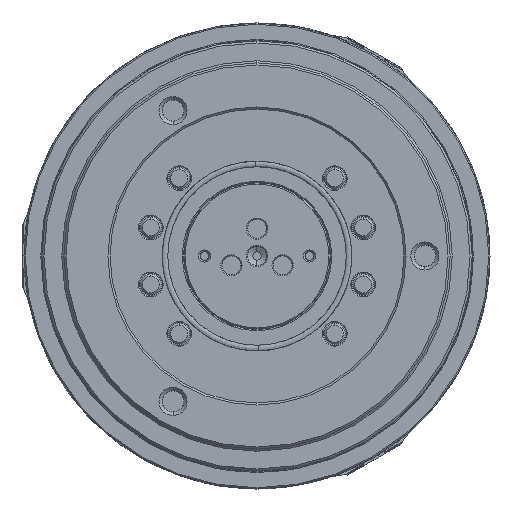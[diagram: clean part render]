
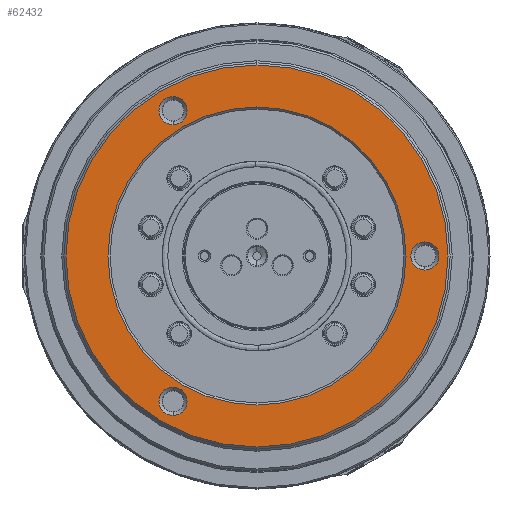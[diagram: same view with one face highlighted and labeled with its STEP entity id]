
A CAD part, left-side view. The second image highlights one B-rep face of the part: STEP entity #62432.
In plain terms, the highlighted planar face has unit normal (-1, 0, 0).
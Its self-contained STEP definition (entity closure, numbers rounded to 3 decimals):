
#569 = CARTESIAN_POINT ( 'NONE',  ( -112., -80., -6.7 ) ) ;
#1786 = VERTEX_POINT ( 'NONE', #105604 ) ;
#3149 = CIRCLE ( 'NONE', #72936, 91. ) ;
#4981 = CARTESIAN_POINT ( 'NONE',  ( -112., 40., -75.982 ) ) ;
#6505 = DIRECTION ( 'NONE',  ( 1., 0., 0. ) ) ;
#6790 = VERTEX_POINT ( 'NONE', #8738 ) ;
#7437 = CARTESIAN_POINT ( 'NONE',  ( -112., 40., 69.282 ) ) ;
#7969 = EDGE_CURVE ( 'NONE', #97778, #6790, #3149, .T. ) ;
#8738 = CARTESIAN_POINT ( 'NONE',  ( -112., 0., -91. ) ) ;
#9093 = CARTESIAN_POINT ( 'NONE',  ( -112., 0., 0. ) ) ;
#9693 = EDGE_CURVE ( 'NONE', #52548, #1786, #76885, .T. ) ;
#10451 = AXIS2_PLACEMENT_3D ( 'NONE', #24880, #6505, #41558 ) ;
#11562 = AXIS2_PLACEMENT_3D ( 'NONE', #79365, #68442, #27023 ) ;
#13842 = CIRCLE ( 'NONE', #74508, 6.7 ) ;
#17148 = CARTESIAN_POINT ( 'NONE',  ( -112., -80., 0. ) ) ;
#17513 = CARTESIAN_POINT ( 'NONE',  ( -112., 0., -71. ) ) ;
#17681 = DIRECTION ( 'NONE',  ( -1., 0., 0. ) ) ;
#20138 = VERTEX_POINT ( 'NONE', #53413 ) ;
#20325 = CARTESIAN_POINT ( 'NONE',  ( -112., 0., 0. ) ) ;
#21703 = CARTESIAN_POINT ( 'NONE',  ( -112., -80., 0. ) ) ;
#23048 = DIRECTION ( 'NONE',  ( 0., 0., 1. ) ) ;
#23102 = EDGE_LOOP ( 'NONE', ( #49846, #45462 ) ) ;
#23727 = EDGE_CURVE ( 'NONE', #20138, #27788, #13842, .T. ) ;
#24880 = CARTESIAN_POINT ( 'NONE',  ( -112., 40., -69.282 ) ) ;
#25861 = EDGE_CURVE ( 'NONE', #1786, #52548, #107199, .T. ) ;
#26513 = EDGE_CURVE ( 'NONE', #6790, #97778, #39201, .T. ) ;
#26851 = AXIS2_PLACEMENT_3D ( 'NONE', #7437, #49433, #77057 ) ;
#27023 = DIRECTION ( 'NONE',  ( 0., 0., 1. ) ) ;
#27255 = DIRECTION ( 'NONE',  ( -1., 0., 0. ) ) ;
#27788 = VERTEX_POINT ( 'NONE', #33365 ) ;
#27871 = DIRECTION ( 'NONE',  ( 0., 0., -1. ) ) ;
#28326 = EDGE_CURVE ( 'NONE', #63162, #90652, #76291, .T. ) ;
#30321 = AXIS2_PLACEMENT_3D ( 'NONE', #81380, #37634, #27871 ) ;
#33365 = CARTESIAN_POINT ( 'NONE',  ( -112., 40., 75.982 ) ) ;
#33924 = CIRCLE ( 'NONE', #61575, 71. ) ;
#34611 = ORIENTED_EDGE ( 'NONE', *, *, #100334, .F. ) ;
#37017 = FACE_BOUND ( 'NONE', #108084, .T. ) ;
#37399 = AXIS2_PLACEMENT_3D ( 'NONE', #9093, #17681, #23048 ) ;
#37634 = DIRECTION ( 'NONE',  ( 1., 0., 0. ) ) ;
#38931 = DIRECTION ( 'NONE',  ( 0., 0., -1. ) ) ;
#39201 = CIRCLE ( 'NONE', #37399, 91. ) ;
#39317 = DIRECTION ( 'NONE',  ( 1., 0., 0. ) ) ;
#41001 = CARTESIAN_POINT ( 'NONE',  ( -112., 40., 69.282 ) ) ;
#41558 = DIRECTION ( 'NONE',  ( 0., 0., -1. ) ) ;
#42119 = VERTEX_POINT ( 'NONE', #17513 ) ;
#42793 = EDGE_LOOP ( 'NONE', ( #60683, #50841 ) ) ;
#42817 = ORIENTED_EDGE ( 'NONE', *, *, #9693, .T. ) ;
#43340 = ORIENTED_EDGE ( 'NONE', *, *, #110325, .F. ) ;
#45462 = ORIENTED_EDGE ( 'NONE', *, *, #7969, .T. ) ;
#45663 = FACE_BOUND ( 'NONE', #90631, .T. ) ;
#46782 = FACE_BOUND ( 'NONE', #42793, .T. ) ;
#47391 = CARTESIAN_POINT ( 'NONE',  ( -112., 71., 0. ) ) ;
#48200 = DIRECTION ( 'NONE',  ( -1., 0., 0. ) ) ;
#49433 = DIRECTION ( 'NONE',  ( 1., 0., 0. ) ) ;
#49846 = ORIENTED_EDGE ( 'NONE', *, *, #26513, .T. ) ;
#49892 = CARTESIAN_POINT ( 'NONE',  ( -112., 0., 0. ) ) ;
#50841 = ORIENTED_EDGE ( 'NONE', *, *, #28326, .T. ) ;
#52237 = DIRECTION ( 'NONE',  ( 0., 0., -1. ) ) ;
#52548 = VERTEX_POINT ( 'NONE', #569 ) ;
#53413 = CARTESIAN_POINT ( 'NONE',  ( -112., 40., 62.582 ) ) ;
#54892 = PLANE ( 'NONE',  #82966 ) ;
#55429 = FACE_BOUND ( 'NONE', #93624, .T. ) ;
#60683 = ORIENTED_EDGE ( 'NONE', *, *, #79057, .T. ) ;
#61575 = AXIS2_PLACEMENT_3D ( 'NONE', #49892, #48200, #101718 ) ;
#62432 = ADVANCED_FACE ( 'NONE', ( #55429, #45663, #46782, #37017, #64086 ), #54892, .F. ) ;
#63046 = AXIS2_PLACEMENT_3D ( 'NONE', #21703, #91897, #38931 ) ;
#63162 = VERTEX_POINT ( 'NONE', #4981 ) ;
#63376 = CARTESIAN_POINT ( 'NONE',  ( -112., 0., 91. ) ) ;
#64086 = FACE_OUTER_BOUND ( 'NONE', #23102, .T. ) ;
#68370 = DIRECTION ( 'NONE',  ( 1., 0., 0. ) ) ;
#68442 = DIRECTION ( 'NONE',  ( -1., 0., 0. ) ) ;
#69287 = EDGE_CURVE ( 'NONE', #27788, #20138, #76470, .T. ) ;
#69480 = AXIS2_PLACEMENT_3D ( 'NONE', #17148, #68370, #52237 ) ;
#70203 = CARTESIAN_POINT ( 'NONE',  ( -112., 0., 71. ) ) ;
#72143 = DIRECTION ( 'NONE',  ( 1., 0., 0. ) ) ;
#72817 = ORIENTED_EDGE ( 'NONE', *, *, #23727, .T. ) ;
#72936 = AXIS2_PLACEMENT_3D ( 'NONE', #20325, #27255, #73264 ) ;
#73264 = DIRECTION ( 'NONE',  ( 0., 0., 1. ) ) ;
#74508 = AXIS2_PLACEMENT_3D ( 'NONE', #41001, #39317, #91154 ) ;
#76291 = CIRCLE ( 'NONE', #30321, 6.7 ) ;
#76470 = CIRCLE ( 'NONE', #26851, 6.7 ) ;
#76885 = CIRCLE ( 'NONE', #69480, 6.7 ) ;
#77057 = DIRECTION ( 'NONE',  ( 0., 0., -1. ) ) ;
#78511 = VERTEX_POINT ( 'NONE', #70203 ) ;
#79057 = EDGE_CURVE ( 'NONE', #90652, #63162, #111488, .T. ) ;
#79365 = CARTESIAN_POINT ( 'NONE',  ( -112., 0., 0. ) ) ;
#81176 = CARTESIAN_POINT ( 'NONE',  ( -112., 40., -62.582 ) ) ;
#81380 = CARTESIAN_POINT ( 'NONE',  ( -112., 40., -69.282 ) ) ;
#82966 = AXIS2_PLACEMENT_3D ( 'NONE', #47391, #72143, #107266 ) ;
#90631 = EDGE_LOOP ( 'NONE', ( #112873, #72817 ) ) ;
#90652 = VERTEX_POINT ( 'NONE', #81176 ) ;
#91154 = DIRECTION ( 'NONE',  ( 0., 0., -1. ) ) ;
#91897 = DIRECTION ( 'NONE',  ( 1., 0., 0. ) ) ;
#93624 = EDGE_LOOP ( 'NONE', ( #109797, #42817 ) ) ;
#97778 = VERTEX_POINT ( 'NONE', #63376 ) ;
#100334 = EDGE_CURVE ( 'NONE', #42119, #78511, #105300, .T. ) ;
#101718 = DIRECTION ( 'NONE',  ( 0., 0., 1. ) ) ;
#105300 = CIRCLE ( 'NONE', #11562, 71. ) ;
#105604 = CARTESIAN_POINT ( 'NONE',  ( -112., -80., 6.7 ) ) ;
#107199 = CIRCLE ( 'NONE', #63046, 6.7 ) ;
#107266 = DIRECTION ( 'NONE',  ( 0., 0., -1. ) ) ;
#108084 = EDGE_LOOP ( 'NONE', ( #43340, #34611 ) ) ;
#109797 = ORIENTED_EDGE ( 'NONE', *, *, #25861, .T. ) ;
#110325 = EDGE_CURVE ( 'NONE', #78511, #42119, #33924, .T. ) ;
#111488 = CIRCLE ( 'NONE', #10451, 6.7 ) ;
#112873 = ORIENTED_EDGE ( 'NONE', *, *, #69287, .T. ) ;
